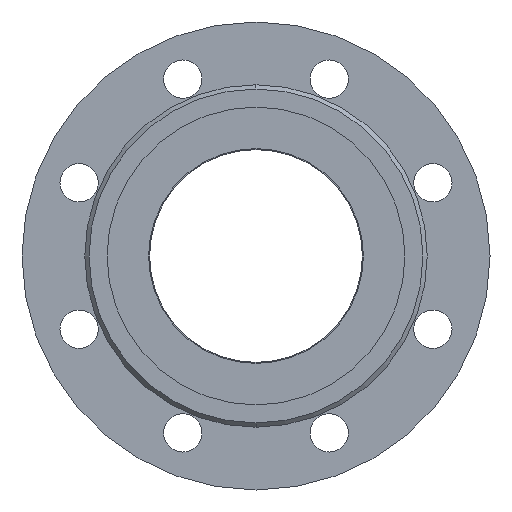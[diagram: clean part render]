
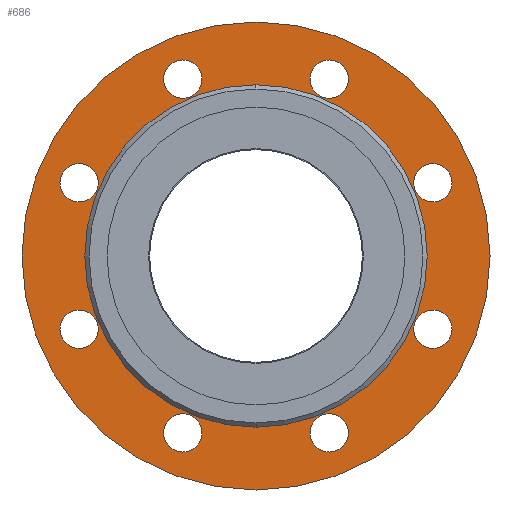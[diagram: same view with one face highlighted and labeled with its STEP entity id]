
A CAD part, left-side view. The second image highlights one B-rep face of the part: STEP entity #686.
In plain terms, the highlighted planar face has unit normal (-1, 0, 0).
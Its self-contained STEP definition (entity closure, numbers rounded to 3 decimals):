
#686=ADVANCED_FACE('',(#1337,#1338,#1339,#1340,#1341,#1342,#1343,#1344,#1345,#1346),#1347,.F.);
#1337=FACE_BOUND('',#2154,.T.);
#1338=FACE_BOUND('',#2155,.T.);
#1339=FACE_BOUND('',#2156,.T.);
#1340=FACE_BOUND('',#2157,.T.);
#1341=FACE_BOUND('',#2158,.T.);
#1342=FACE_BOUND('',#2159,.T.);
#1343=FACE_BOUND('',#2160,.T.);
#1344=FACE_BOUND('',#2161,.T.);
#1345=FACE_BOUND('',#2162,.T.);
#1346=FACE_OUTER_BOUND('',#2163,.T.);
#1347=PLANE('',#2164);
#2154=EDGE_LOOP('',(#3312,#3313));
#2155=EDGE_LOOP('',(#3314,#3315));
#2156=EDGE_LOOP('',(#3316,#3317));
#2157=EDGE_LOOP('',(#3318,#3319));
#2158=EDGE_LOOP('',(#3320,#3321));
#2159=EDGE_LOOP('',(#3322,#3323));
#2160=EDGE_LOOP('',(#3324,#3325));
#2161=EDGE_LOOP('',(#3326,#3327));
#2162=EDGE_LOOP('',(#3328,#3329));
#2163=EDGE_LOOP('',(#3330,#3331));
#2164=AXIS2_PLACEMENT_3D('',#3332,#3333,#3334);
#3312=ORIENTED_EDGE('',*,*,#4469,.T.);
#3313=ORIENTED_EDGE('',*,*,#4712,.T.);
#3314=ORIENTED_EDGE('',*,*,#4713,.T.);
#3315=ORIENTED_EDGE('',*,*,#4703,.T.);
#3316=ORIENTED_EDGE('',*,*,#4714,.T.);
#3317=ORIENTED_EDGE('',*,*,#4331,.T.);
#3318=ORIENTED_EDGE('',*,*,#4715,.T.);
#3319=ORIENTED_EDGE('',*,*,#4677,.T.);
#3320=ORIENTED_EDGE('',*,*,#4592,.T.);
#3321=ORIENTED_EDGE('',*,*,#4716,.T.);
#3322=ORIENTED_EDGE('',*,*,#4717,.T.);
#3323=ORIENTED_EDGE('',*,*,#4718,.T.);
#3324=ORIENTED_EDGE('',*,*,#4529,.T.);
#3325=ORIENTED_EDGE('',*,*,#4617,.T.);
#3326=ORIENTED_EDGE('',*,*,#4693,.T.);
#3327=ORIENTED_EDGE('',*,*,#4478,.T.);
#3328=ORIENTED_EDGE('',*,*,#4719,.T.);
#3329=ORIENTED_EDGE('',*,*,#4389,.T.);
#3330=ORIENTED_EDGE('',*,*,#4720,.F.);
#3331=ORIENTED_EDGE('',*,*,#4534,.F.);
#3332=CARTESIAN_POINT('',(5.0,0.0,0.));
#3333=DIRECTION('',(1.0,0.0,0.));
#3334=DIRECTION('',(0.,0.0,-1.0));
#4331=EDGE_CURVE('',#5053,#5051,#5054,.T.);
#4389=EDGE_CURVE('',#5153,#5151,#5154,.T.);
#4469=EDGE_CURVE('',#5285,#5283,#5286,.T.);
#4478=EDGE_CURVE('',#5300,#5298,#5301,.T.);
#4529=EDGE_CURVE('',#5378,#5382,#5384,.T.);
#4534=EDGE_CURVE('',#5391,#5386,#5393,.T.);
#4592=EDGE_CURVE('',#5476,#5480,#5482,.T.);
#4617=EDGE_CURVE('',#5382,#5378,#5519,.T.);
#4677=EDGE_CURVE('',#5611,#5609,#5612,.T.);
#4693=EDGE_CURVE('',#5298,#5300,#5632,.T.);
#4703=EDGE_CURVE('',#5647,#5645,#5648,.T.);
#4712=EDGE_CURVE('',#5283,#5285,#5658,.T.);
#4713=EDGE_CURVE('',#5645,#5647,#5659,.T.);
#4714=EDGE_CURVE('',#5051,#5053,#5660,.T.);
#4715=EDGE_CURVE('',#5609,#5611,#5661,.T.);
#4716=EDGE_CURVE('',#5480,#5476,#5662,.T.);
#4717=EDGE_CURVE('',#5663,#5664,#5665,.T.);
#4718=EDGE_CURVE('',#5664,#5663,#5666,.T.);
#4719=EDGE_CURVE('',#5151,#5153,#5667,.T.);
#4720=EDGE_CURVE('',#5386,#5391,#5668,.T.);
#5051=VERTEX_POINT('',#6062);
#5053=VERTEX_POINT('',#6065);
#5054=CIRCLE('',#6066,9.0);
#5151=VERTEX_POINT('',#6180);
#5153=VERTEX_POINT('',#6183);
#5154=CIRCLE('',#6184,9.0);
#5283=VERTEX_POINT('',#6339);
#5285=VERTEX_POINT('',#6342);
#5286=CIRCLE('',#6343,50.0);
#5298=VERTEX_POINT('',#6359);
#5300=VERTEX_POINT('',#6362);
#5301=CIRCLE('',#6363,9.0);
#5378=VERTEX_POINT('',#6458);
#5382=VERTEX_POINT('',#6463);
#5384=CIRCLE('',#6466,9.0);
#5386=VERTEX_POINT('',#6468);
#5391=VERTEX_POINT('',#6474);
#5393=CIRCLE('',#6477,110.0);
#5476=VERTEX_POINT('',#6585);
#5480=VERTEX_POINT('',#6590);
#5482=CIRCLE('',#6593,9.0);
#5519=CIRCLE('',#6637,9.0);
#5609=VERTEX_POINT('',#6748);
#5611=VERTEX_POINT('',#6751);
#5612=CIRCLE('',#6752,9.0);
#5632=CIRCLE('',#6779,9.0);
#5645=VERTEX_POINT('',#6796);
#5647=VERTEX_POINT('',#6799);
#5648=CIRCLE('',#6800,9.0);
#5658=CIRCLE('',#6813,50.0);
#5659=CIRCLE('',#6814,9.0);
#5660=CIRCLE('',#6815,9.0);
#5661=CIRCLE('',#6816,9.0);
#5662=CIRCLE('',#6817,9.0);
#5663=VERTEX_POINT('',#6818);
#5664=VERTEX_POINT('',#6819);
#5665=CIRCLE('',#6820,9.0);
#5666=CIRCLE('',#6821,9.0);
#5667=CIRCLE('',#6822,9.0);
#5668=CIRCLE('',#6823,110.0);
#6062=CARTESIAN_POINT('',(5.0,34.442,-92.149));
#6065=CARTESIAN_POINT('',(5.0,34.442,-74.149));
#6066=AXIS2_PLACEMENT_3D('',#7237,#7238,#7239);
#6180=CARTESIAN_POINT('',(5.0,-34.442,-92.149));
#6183=CARTESIAN_POINT('',(5.0,-34.442,-74.149));
#6184=AXIS2_PLACEMENT_3D('',#7336,#7337,#7338);
#6339=CARTESIAN_POINT('',(5.0,0.,-50.0));
#6342=CARTESIAN_POINT('',(5.0,0.,50.0));
#6343=AXIS2_PLACEMENT_3D('',#7465,#7466,#7467);
#6359=CARTESIAN_POINT('',(5.0,-83.149,-43.442));
#6362=CARTESIAN_POINT('',(5.0,-83.149,-25.442));
#6363=AXIS2_PLACEMENT_3D('',#7476,#7477,#7478);
#6458=CARTESIAN_POINT('',(5.0,34.442,74.149));
#6463=CARTESIAN_POINT('',(5.,34.442,92.149));
#6466=AXIS2_PLACEMENT_3D('',#7556,#7557,#7558);
#6468=CARTESIAN_POINT('',(5.,0.0,-110.0));
#6474=CARTESIAN_POINT('',(5.,0.,110.0));
#6477=AXIS2_PLACEMENT_3D('',#7564,#7565,#7566);
#6585=CARTESIAN_POINT('',(5.0,-34.442,74.149));
#6590=CARTESIAN_POINT('',(5.,-34.442,92.149));
#6593=AXIS2_PLACEMENT_3D('',#7639,#7640,#7641);
#6637=AXIS2_PLACEMENT_3D('',#7679,#7680,#7681);
#6748=CARTESIAN_POINT('',(5.0,-83.149,25.442));
#6751=CARTESIAN_POINT('',(5.0,-83.149,43.442));
#6752=AXIS2_PLACEMENT_3D('',#7767,#7768,#7769);
#6779=AXIS2_PLACEMENT_3D('',#7786,#7787,#7788);
#6796=CARTESIAN_POINT('',(5.0,83.149,-43.442));
#6799=CARTESIAN_POINT('',(5.0,83.149,-25.442));
#6800=AXIS2_PLACEMENT_3D('',#7797,#7798,#7799);
#6813=AXIS2_PLACEMENT_3D('',#7809,#7810,#7811);
#6814=AXIS2_PLACEMENT_3D('',#7812,#7813,#7814);
#6815=AXIS2_PLACEMENT_3D('',#7815,#7816,#7817);
#6816=AXIS2_PLACEMENT_3D('',#7818,#7819,#7820);
#6817=AXIS2_PLACEMENT_3D('',#7821,#7822,#7823);
#6818=CARTESIAN_POINT('',(5.0,83.149,25.442));
#6819=CARTESIAN_POINT('',(5.0,83.149,43.442));
#6820=AXIS2_PLACEMENT_3D('',#7824,#7825,#7826);
#6821=AXIS2_PLACEMENT_3D('',#7827,#7828,#7829);
#6822=AXIS2_PLACEMENT_3D('',#7830,#7831,#7832);
#6823=AXIS2_PLACEMENT_3D('',#7833,#7834,#7835);
#7237=CARTESIAN_POINT('',(5.,34.442,-83.149));
#7238=DIRECTION('',(1.0,0.0,0.));
#7239=DIRECTION('',(0.,0.0,-1.0));
#7336=CARTESIAN_POINT('',(5.,-34.442,-83.149));
#7337=DIRECTION('',(1.0,0.0,0.));
#7338=DIRECTION('',(0.,0.0,-1.0));
#7465=CARTESIAN_POINT('',(5.0,0.0,0.));
#7466=DIRECTION('',(1.0,0.0,0.));
#7467=DIRECTION('',(0.,0.0,-1.0));
#7476=CARTESIAN_POINT('',(5.0,-83.149,-34.442));
#7477=DIRECTION('',(1.0,0.0,0.));
#7478=DIRECTION('',(0.,0.0,-1.0));
#7556=CARTESIAN_POINT('',(5.,34.442,83.149));
#7557=DIRECTION('',(1.0,0.0,0.));
#7558=DIRECTION('',(0.,0.0,-1.0));
#7564=CARTESIAN_POINT('',(5.0,0.0,0.));
#7565=DIRECTION('',(1.0,0.0,0.));
#7566=DIRECTION('',(0.,0.0,-1.0));
#7639=CARTESIAN_POINT('',(5.,-34.442,83.149));
#7640=DIRECTION('',(1.0,0.0,0.));
#7641=DIRECTION('',(0.,0.0,-1.0));
#7679=CARTESIAN_POINT('',(5.,34.442,83.149));
#7680=DIRECTION('',(1.0,0.0,0.));
#7681=DIRECTION('',(0.,0.0,-1.0));
#7767=CARTESIAN_POINT('',(5.0,-83.149,34.442));
#7768=DIRECTION('',(1.0,0.0,0.));
#7769=DIRECTION('',(0.,0.0,-1.0));
#7786=CARTESIAN_POINT('',(5.0,-83.149,-34.442));
#7787=DIRECTION('',(1.0,0.0,0.));
#7788=DIRECTION('',(0.,0.0,-1.0));
#7797=CARTESIAN_POINT('',(5.0,83.149,-34.442));
#7798=DIRECTION('',(1.0,0.0,0.));
#7799=DIRECTION('',(0.,0.0,-1.0));
#7809=CARTESIAN_POINT('',(5.0,0.0,0.));
#7810=DIRECTION('',(1.0,0.0,0.));
#7811=DIRECTION('',(0.,0.0,-1.0));
#7812=CARTESIAN_POINT('',(5.0,83.149,-34.442));
#7813=DIRECTION('',(1.0,0.0,0.));
#7814=DIRECTION('',(0.,0.0,-1.0));
#7815=CARTESIAN_POINT('',(5.,34.442,-83.149));
#7816=DIRECTION('',(1.0,0.0,0.));
#7817=DIRECTION('',(0.,0.0,-1.0));
#7818=CARTESIAN_POINT('',(5.0,-83.149,34.442));
#7819=DIRECTION('',(1.0,0.0,0.));
#7820=DIRECTION('',(0.,0.0,-1.0));
#7821=CARTESIAN_POINT('',(5.,-34.442,83.149));
#7822=DIRECTION('',(1.0,0.0,0.));
#7823=DIRECTION('',(0.,0.0,-1.0));
#7824=CARTESIAN_POINT('',(5.0,83.149,34.442));
#7825=DIRECTION('',(1.0,0.0,0.));
#7826=DIRECTION('',(0.,0.0,-1.0));
#7827=CARTESIAN_POINT('',(5.0,83.149,34.442));
#7828=DIRECTION('',(1.0,0.0,0.));
#7829=DIRECTION('',(0.,0.0,-1.0));
#7830=CARTESIAN_POINT('',(5.,-34.442,-83.149));
#7831=DIRECTION('',(1.0,0.0,0.));
#7832=DIRECTION('',(0.,0.0,-1.0));
#7833=CARTESIAN_POINT('',(5.0,0.0,0.));
#7834=DIRECTION('',(1.0,0.0,0.));
#7835=DIRECTION('',(0.,0.0,-1.0));
